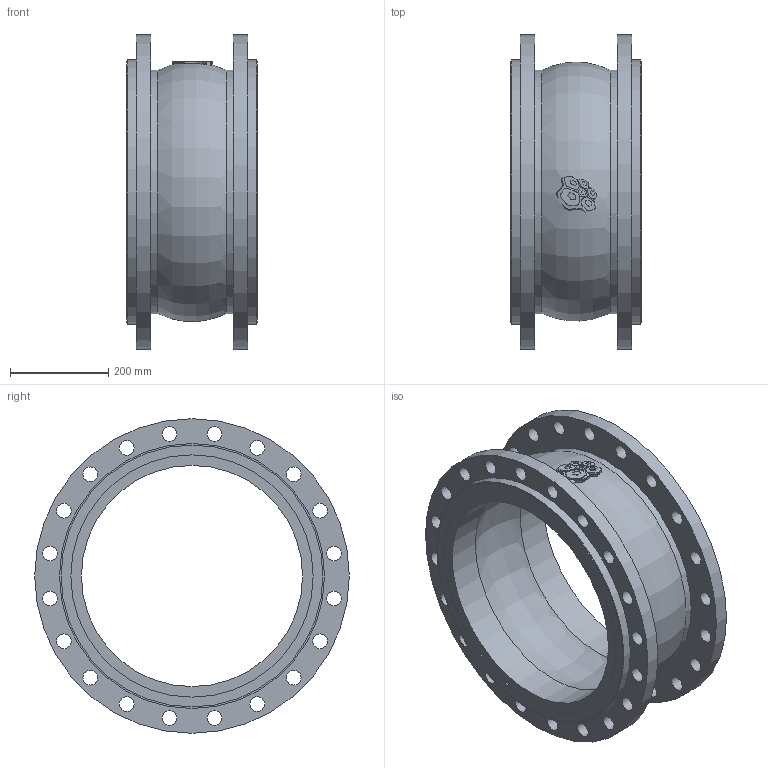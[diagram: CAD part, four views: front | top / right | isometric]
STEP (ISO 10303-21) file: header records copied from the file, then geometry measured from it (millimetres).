
FILE_DESCRIPTION(('STEP AP203'), '1');
FILE_NAME('3D_501-450-EPDM-FF', '', ('UNSPECIFIED'), ('UNSPECIFIED'), 'C3D Converter', 'C3D Toolkit', '');
FILE_SCHEMA(('CONFIG_CONTROL_DESIGN'));
Length unit declared in the file: millimetre
Bounding box: 265 x 640 x 640 mm (x, y, z)
Volume: 17181966.1 mm3; surface area: 1637825.2 mm2
Topology: 1 solids, 1 shells, 895 faces, 2627 edges, 1758 vertices
Faces by surface type: plane 833, cylinder 54, torus 8
Full cylindrical faces by diameter (mm): 30 x40, 450 x2, 493 x2, 495 x4, 533 x2, 539 x2, 640 x2
Entity records: 38629 total; most frequent: CARTESIAN_POINT 9145, ORIENTED_EDGE 5142, DIRECTION 3684, EDGE_CURVE 2571, VERTEX_POINT 1758, LINE 1626, VECTOR 1626, EDGE_LOOP 1057
